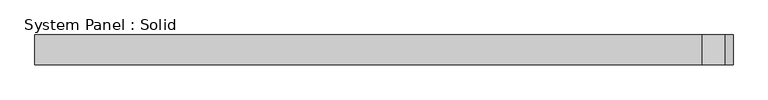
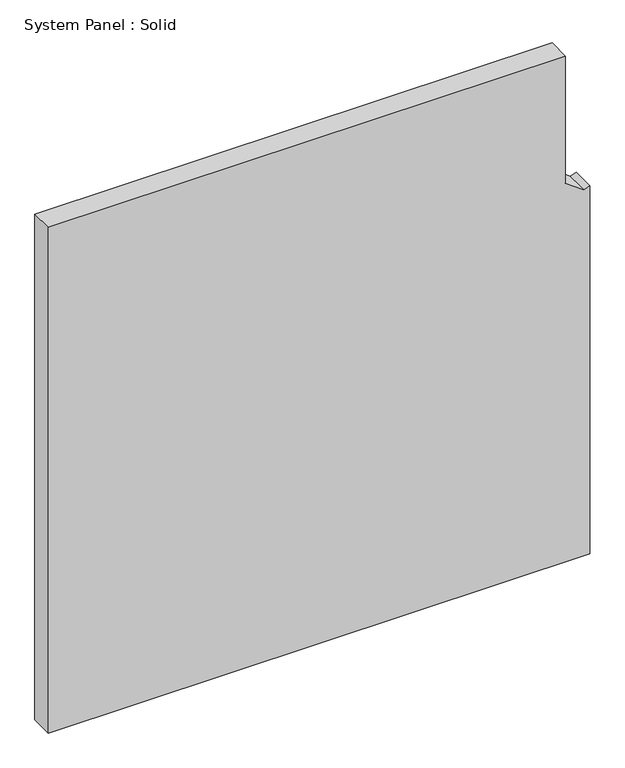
"""IFC4 building model written with IfcOpenShell, lengths in millimetres: plate geometry, System Panel : Solid."""

from ifc_helpers import new_model, si_unit, frame, origin, place, context, project, spatial, polyline, outline, extrude, source, transform, mapped, element, save


def system_panel_solid_f673cd79(model_context):
    return source(origin(), model_context, "Body", "SweptSolid", [
        extrude(outline(polyline([(0.0, -742.95), (0.0, 742.95), (1067.9140737, 742.95), (1062.4051663, 726.4232779), (1098.55, 676.275), (1466.85, 676.275), (1466.85, -742.95), (0.0, -742.95)])), frame((0.0, -19.05, 0.0), z_axis=(0.0, 1.0, 0.0), x_axis=(0.0, 0.0, 1.0)), (0.0, 0.0, 1.0), 63.5),
    ])


if __name__ == "__main__":
    model = new_model("IFC4")
    model_context = context("Model", 3, world=origin())
    ifc_project = project(units=[si_unit("LENGTHUNIT", "METRE", prefix="MILLI")], contexts=[model_context])
    site = spatial("IfcSite", under=ifc_project)
    building = spatial("IfcBuilding", under=site)
    placement = place(None, origin())
    system_panel_solid_shape = system_panel_solid_f673cd79(model_context)
    element("IfcPlate", 1, ObjectType="System Panel : Solid", at=placement, inside=building, context=model_context, shape_type="MappedRepresentation", body=[
        mapped(system_panel_solid_shape, transform((0.0, 0.0, 0.0), x_axis=(1.0, 0.0, 0.0), y_axis=(0.0, 1.0, 0.0), z_axis=(0.0, 0.0, 1.0))),
    ])
    save(model, "model.ifc")
